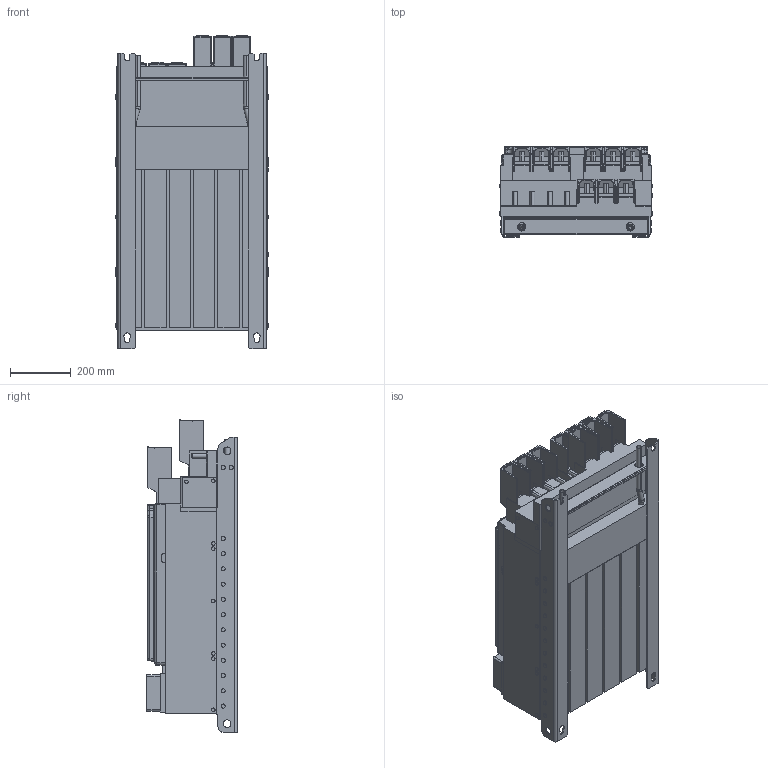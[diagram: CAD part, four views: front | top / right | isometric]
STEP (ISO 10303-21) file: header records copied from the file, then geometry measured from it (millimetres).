
FILE_DESCRIPTION (( 'STEP AP214' ), '1' );
FILE_NAME ('F6-9-TK0-A011.STEP', '2023-11-27T09:39:49', ( '' ), ( '' ), 'SwSTEP 2.0', 'SolidWorks 2022', '' );
FILE_SCHEMA (( 'AUTOMOTIVE_DESIGN' ));
Length unit declared in the file: millimetre
Products named in the file (12): 10068648_000_Kundenmodell mit BW; F6-9-TK0-A011; Kundenmodell^10044643_000; Kundenmodell^10054881_000; Kundenmodell^10059764_000; 10064851_000_Kundenmodell (mit BW''s); 10044643_000_Kundenmodell; 10049764_000_Kundenmodell; Kundenmodell mit BW^10068648_000; 10054881_000_Deckel (Kundenmodell); Kundenmodell^10049764_000; 10059764_000_Blindabdeckung (Kundenmodell)
Assembly tree (11 placements, depth 4):
  F6-9-TK0-A011
    10064851_000_Kundenmodell (mit BW''s)
      10068648_000_Kundenmodell mit BW
        Kundenmodell mit BW^10068648_000
    10049764_000_Kundenmodell
      Kundenmodell^10049764_000
    10044643_000_Kundenmodell
      10059764_000_Blindabdeckung (Kundenmodell)
        Kundenmodell^10059764_000
      Kundenmodell^10044643_000
    10054881_000_Deckel (Kundenmodell)
      Kundenmodell^10054881_000
Bounding box: 502.5 x 296.5 x 1028.38 mm (x, y, z)
Volume: 99649824.1 mm3; surface area: 4425895.4 mm2
Topology: 5 solids, 5 shells, 2772 faces, 7168 edges, 4488 vertices
Faces by surface type: plane 1297, cylinder 914, bspline 274, cone 120, sphere 92, torus 75
Entity records: 92551 total; most frequent: CARTESIAN_POINT 26442, ORIENTED_EDGE 14168, DIRECTION 13134, EDGE_CURVE 7084, VERTEX_POINT 4488, AXIS2_PLACEMENT_3D 4421, VECTOR 4292, LINE 4292
